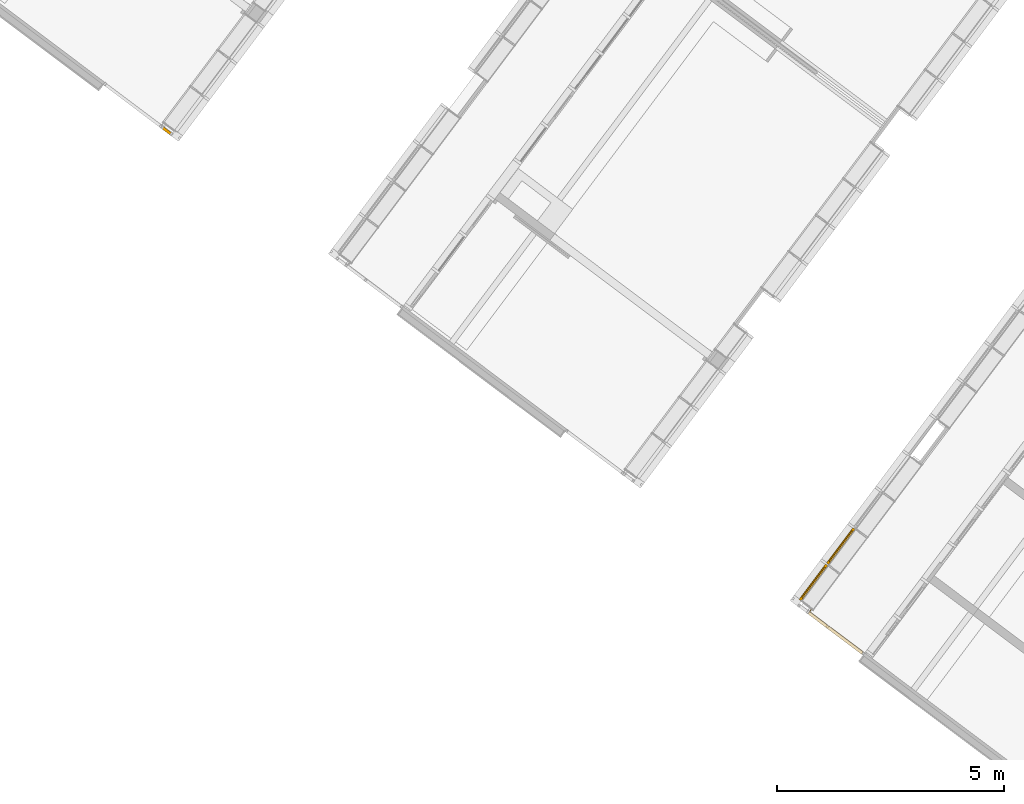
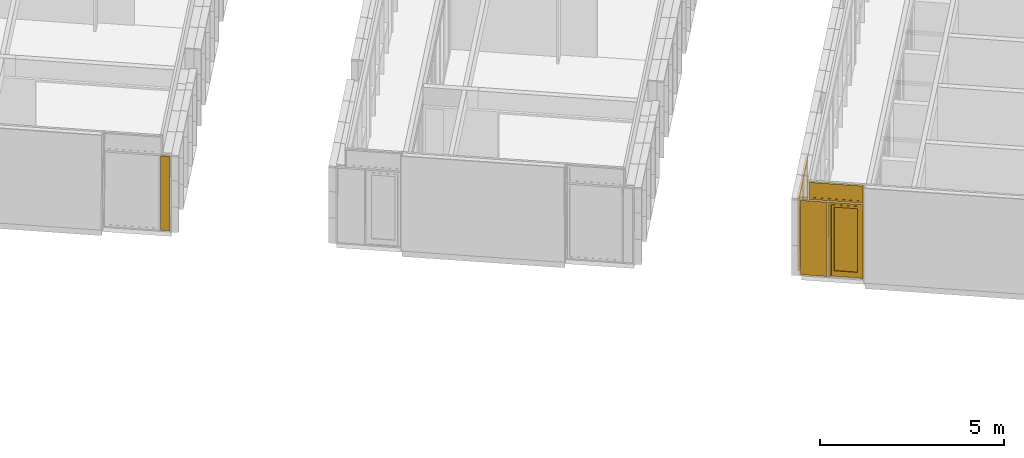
# One storey, part 139 of 243: 3 doors, 3 windows, 3 elements without a shape of their own.
"""IFC2X3 building model written with IfcOpenShell, lengths in metres."""

from ifc_helpers import new_model, entity, si_unit, converted_unit, derived_unit, direction, frame, origin, origin_2d_with_axis, place, context, subcontext, project, spatial, polyline, rectangle, outline, extrude, faceted_brep, source, transform, mapped, material, material_list, type_object, type_shapes, element, aggregate, save


model = new_model("IFC2X3")

# Units and contexts
model_context = context("Model", 3, precision=1e-05, world=origin(), true_north=direction((6.123031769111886e-17, 1.0)))
body_context = subcontext(model_context, "Body", "Model", "MODEL_VIEW")
ifc_project = project(units=[si_unit("LENGTHUNIT", "METRE"), si_unit("AREAUNIT", "SQUARE_METRE"), si_unit("VOLUMEUNIT", "CUBIC_METRE"), converted_unit("PLANEANGLEUNIT", "DEGREE", entity("IfcRatioMeasure", 0.017453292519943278), si_unit("PLANEANGLEUNIT", "RADIAN"), dimensions=[0, 0, 0, 0, 0, 0, 0]), si_unit("MASSUNIT", "GRAM", prefix="KILO"), derived_unit("MASSDENSITYUNIT", [(si_unit("MASSUNIT", "GRAM", prefix="KILO"), 1), (si_unit("LENGTHUNIT", "METRE"), -3)]), derived_unit("IONCONCENTRATIONUNIT", [(si_unit("MASSUNIT", "GRAM", prefix="KILO"), 1), (si_unit("LENGTHUNIT", "METRE"), -3)]), derived_unit("MOMENTOFINERTIAUNIT", [(si_unit("LENGTHUNIT", "METRE"), 4)]), si_unit("TIMEUNIT", "SECOND"), si_unit("FREQUENCYUNIT", "HERTZ"), si_unit("THERMODYNAMICTEMPERATUREUNIT", "DEGREE_CELSIUS"), derived_unit("THERMALTRANSMITTANCEUNIT", [(si_unit("MASSUNIT", "GRAM", prefix="KILO"), 1), (si_unit("THERMODYNAMICTEMPERATUREUNIT", "KELVIN"), -1), (si_unit("TIMEUNIT", "SECOND"), -3)]), derived_unit("THERMALCONDUCTANCEUNIT", [(si_unit("MASSUNIT", "GRAM", prefix="KILO"), 1), (si_unit("THERMODYNAMICTEMPERATUREUNIT", "KELVIN"), -1), (si_unit("TIMEUNIT", "SECOND"), -3), (si_unit("LENGTHUNIT", "METRE"), 1)]), derived_unit("VOLUMETRICFLOWRATEUNIT", [(si_unit("LENGTHUNIT", "METRE"), 3), (si_unit("TIMEUNIT", "SECOND"), -1)]), derived_unit("MASSFLOWRATEUNIT", [(si_unit("MASSUNIT", "GRAM", prefix="KILO"), 1), (si_unit("TIMEUNIT", "SECOND"), -1)]), derived_unit("ROTATIONALFREQUENCYUNIT", [(si_unit("TIMEUNIT", "SECOND"), -1)]), si_unit("ELECTRICCURRENTUNIT", "AMPERE"), si_unit("ELECTRICVOLTAGEUNIT", "VOLT"), si_unit("POWERUNIT", "WATT"), si_unit("FORCEUNIT", "NEWTON", prefix="KILO"), si_unit("ILLUMINANCEUNIT", "LUX"), si_unit("LUMINOUSFLUXUNIT", "LUMEN"), si_unit("LUMINOUSINTENSITYUNIT", "CANDELA"), derived_unit("USERDEFINED", [(si_unit("MASSUNIT", "GRAM", prefix="KILO"), -1), (si_unit("LENGTHUNIT", "METRE"), -2), (si_unit("TIMEUNIT", "SECOND"), 3), (si_unit("LUMINOUSFLUXUNIT", "LUMEN"), 1)]), derived_unit("USERDEFINED", [(si_unit("MASSUNIT", "GRAM", prefix="KILO"), 1), (si_unit("TIMEUNIT", "SECOND"), -3), (si_unit("LENGTHUNIT", "METRE"), 3), (si_unit("ELECTRICCURRENTUNIT", "AMPERE"), -2)]), derived_unit("SOUNDPOWERUNIT", [(si_unit("MASSUNIT", "GRAM", prefix="KILO"), 1), (si_unit("TIMEUNIT", "SECOND"), -3), (si_unit("LENGTHUNIT", "METRE"), 2)]), derived_unit("SOUNDPRESSUREUNIT", [(si_unit("MASSUNIT", "GRAM", prefix="KILO"), 1), (si_unit("LENGTHUNIT", "METRE"), -1), (si_unit("TIMEUNIT", "SECOND"), -2)]), derived_unit("LINEARVELOCITYUNIT", [(si_unit("LENGTHUNIT", "METRE"), 1), (si_unit("TIMEUNIT", "SECOND"), -1)]), si_unit("PRESSUREUNIT", "PASCAL"), derived_unit("USERDEFINED", [(si_unit("MASSUNIT", "GRAM", prefix="KILO"), 1), (si_unit("LENGTHUNIT", "METRE"), -2), (si_unit("TIMEUNIT", "SECOND"), -2)]), derived_unit("LINEARFORCEUNIT", [(si_unit("MASSUNIT", "GRAM", prefix="KILO"), 1), (si_unit("TIMEUNIT", "SECOND"), -2)]), derived_unit("PLANARFORCEUNIT", [(si_unit("MASSUNIT", "GRAM", prefix="KILO"), 1), (si_unit("LENGTHUNIT", "METRE"), -1), (si_unit("TIMEUNIT", "SECOND"), -2)]), derived_unit("SPECIFICHEATCAPACITYUNIT", [(si_unit("THERMODYNAMICTEMPERATUREUNIT", "KELVIN"), -1), (si_unit("LENGTHUNIT", "METRE"), 2), (si_unit("TIMEUNIT", "SECOND"), -2)]), derived_unit("HEATINGVALUEUNIT", [(si_unit("LENGTHUNIT", "METRE"), 2), (si_unit("TIMEUNIT", "SECOND"), -2)]), derived_unit("VAPORPERMEABILITYUNIT", [(si_unit("LENGTHUNIT", "METRE"), -1), (si_unit("TIMEUNIT", "SECOND"), 1)]), derived_unit("DYNAMICVISCOSITYUNIT", [(si_unit("MASSUNIT", "GRAM", prefix="KILO"), 1), (si_unit("TIMEUNIT", "SECOND"), -1), (si_unit("LENGTHUNIT", "METRE"), -1)]), derived_unit("THERMALEXPANSIONCOEFFICIENTUNIT", [(si_unit("THERMODYNAMICTEMPERATUREUNIT", "KELVIN"), -1)]), derived_unit("MODULUSOFELASTICITYUNIT", [(si_unit("MASSUNIT", "GRAM", prefix="KILO"), 1), (si_unit("LENGTHUNIT", "METRE"), -1), (si_unit("TIMEUNIT", "SECOND"), -2)]), derived_unit("ISOTHERMALMOISTURECAPACITYUNIT", [(si_unit("LENGTHUNIT", "METRE"), 3), (si_unit("MASSUNIT", "GRAM", prefix="KILO"), -1)]), derived_unit("MOISTUREDIFFUSIVITYUNIT", [(si_unit("TIMEUNIT", "SECOND"), -1), (si_unit("LENGTHUNIT", "METRE"), 2)])], contexts=[model_context])

# Site, building, storey
site_placement = place(None, frame((0.0, 0.0, 235.0), z_axis=(0.0, 0.0, 1.0), x_axis=(-0.7996477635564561, 0.6004693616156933, 0.0)))
site = spatial("IfcSite", under=ifc_project, at=site_placement, Name="Default", CompositionType="ELEMENT")
building_placement = place(site_placement, origin())
building = spatial("IfcBuilding", under=site, at=building_placement, CompositionType="ELEMENT")
storey_placement = place(building_placement, origin())
storey = spatial("IfcBuildingStorey", under=building, at=storey_placement, Name="P0- Escola", CompositionType="ELEMENT", Elevation=0.0)

# Curtain wall, doors, window
curtain_wall_type_1 = type_object("IfcCurtainWallType", Name="Muro cortina:MC- EXT- AL1- Fa porxo", PredefinedType="NOTDEFINED")
curtain_wall_1_placement = place(storey_placement, origin())
curtain_wall_1 = element("IfcCurtainWall", 1, at=curtain_wall_1_placement, inside=storey, type_object=curtain_wall_type_1, Name="Muro cortina:MC- EXT- AL1- Fa porxo", ObjectType="Muro cortina:MC- EXT- AL1- Fa porxo")
ifc_material_1 = material(Name="_Fusta massisa- T1")
ifc_material_2 = material(Name="_Aillament")
ifc_material_3 = material(Name="_Alumini- T1- Perfil")
ifc_material_list_1 = material_list([ifc_material_1, ifc_material_2, ifc_material_3])
door_style_1 = type_object("IfcDoorStyle", Name="MC- Alu- panell especific:MC- Alu- panell especific", ConstructionType="NOTDEFINED", OperationType="NOTDEFINED", ParameterTakesPrecedence=False, Sizeable=False, material=ifc_material_list_1)
shared_shape_1 = source(origin(), body_context, "Body", "SweptSolid", [
    extrude(outline(polyline([(-0.3273333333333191, -0.009999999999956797), (-0.3273333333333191, -0.030000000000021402), (0.17116666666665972, -0.030000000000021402), (0.17116666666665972, 0.03999999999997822), (0.15616666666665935, 0.03999999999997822), (0.15616666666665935, -0.009999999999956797), (-0.3273333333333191, -0.009999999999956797)])), frame((-0.04191666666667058, -0.08000000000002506, 0.0), z_axis=(0.0, 0.0, -1.0), x_axis=(1.0, 0.0, 0.0)), (0.0, 0.0, -1.0), 2.4712499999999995),
    extrude(rectangle(XDim=0.04400000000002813, YDim=0.7384999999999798, at=origin_2d_with_axis()), frame((0.0, -0.027999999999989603, 0.0), z_axis=(0.0, 0.0, 1.0), x_axis=(0.0, 1.0, 0.0)), (0.0, 0.0, 1.0), 2.4712499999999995),
    extrude(rectangle(XDim=0.73849999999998, YDim=0.005999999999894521, at=origin_2d_with_axis()), frame((0.0, -0.003000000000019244, 0.0), z_axis=(0.0, 0.0, 1.0), x_axis=(-1.0, 0.0, 0.0)), (0.0, 0.0, 1.0), 2.4712499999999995),
])
type_shapes(door_style_1, [shared_shape_1])
door_1_placement = place(curtain_wall_1_placement, frame((36.174897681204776, -20.28894175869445, 0.02099999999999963)))
door_1 = element("IfcDoor", 2, at=door_1_placement, type_object=door_style_1, material=ifc_material_list_1, Name="MC- Alu- panell especific:MC- Alu- panell especific", ObjectType="MC- Alu- panell especific:MC- Alu- panell especific", OverallHeight=2.4712499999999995, OverallWidth=0.7384999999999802, context=body_context, shape_type="MappedRepresentation", body=[
    mapped(shared_shape_1, transform((0.0, 0.0, 0.0), scale=1.0)),
])
ifc_material_4 = material(Name="_Vidre")
ifc_material_list_2 = material_list([ifc_material_3, ifc_material_4])
door_style_2 = type_object("IfcDoorStyle", Name="MC- Alu- Conjunt porta- 70x60 cm- +15cm- obertura int:MC- Alu- Conjunt porta- 70x60 cm- +15cm- obertura int", ConstructionType="NOTDEFINED", OperationType="NOTDEFINED", ParameterTakesPrecedence=False, Sizeable=False, material=ifc_material_list_2)
shared_shape_2 = source(origin(), body_context, "Body", "Brep", [
    faceted_brep([(-0.3984499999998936, 0.0, 0.024000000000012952), (0.39844999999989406, 0.0, 0.024000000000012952), (0.39844999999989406, -0.06569970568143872, 0.024000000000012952), (-0.3984499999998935, -0.0656997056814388, 0.024000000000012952), (-0.3984499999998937, -0.0656997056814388, 2.397949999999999), (-0.3984499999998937, 0.0, 2.397949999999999), (0.39844999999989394, -0.06569970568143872, 2.397949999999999), (0.4224499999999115, -0.06569970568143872, 0.0), (-0.42244999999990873, -0.0656997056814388, 0.0), (-0.4224499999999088, -0.0656997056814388, 2.421950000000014), (0.4224499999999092, -0.06569970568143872, 2.421950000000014), (0.39844999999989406, 0.0, 2.397949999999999), (-0.32184999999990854, 0.0, 2.3213500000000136), (-0.3218499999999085, 0.0, 0.20400000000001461), (0.32184999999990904, 0.0, 0.20400000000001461), (0.32184999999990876, 0.0, 2.3213500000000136), (0.4224499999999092, -0.0699997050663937, 2.421950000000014), (0.4224499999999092, -0.0699997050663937, 0.0), (-0.42244999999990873, -0.0699997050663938, 0.0), (-0.4224499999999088, -0.0699997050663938, 2.421950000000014), (0.32184999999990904, -0.06999970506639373, 2.321350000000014), (0.321849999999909, -0.06999970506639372, 0.20400000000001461), (-0.3218499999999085, -0.06999970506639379, 0.20400000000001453), (-0.32184999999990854, -0.06999970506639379, 2.3213500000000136), (0.3218499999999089, -0.06449970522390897, 2.3213500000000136), (0.32184999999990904, -0.06449970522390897, 0.20400000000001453), (-0.3218499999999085, -0.06449970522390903, 0.20400000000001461), (-0.32184999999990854, -0.06449970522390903, 2.3213500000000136), (0.34685000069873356, -0.06449970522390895, 2.3463500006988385), (0.34685000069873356, -0.06449970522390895, 0.17899999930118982), (-0.34685000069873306, -0.06449970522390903, 0.17899999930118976), (-0.34685000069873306, -0.06449970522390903, 2.346350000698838), (0.34685000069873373, -0.018999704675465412, 2.3463500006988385), (0.34685000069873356, -0.01899970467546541, 0.17899999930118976), (-0.34685000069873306, -0.018999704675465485, 0.17899999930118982), (-0.34685000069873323, -0.01899970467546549, 2.346350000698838), (0.32184999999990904, -0.018999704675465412, 2.321350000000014), (0.3218499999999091, -0.018999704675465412, 0.20400000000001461), (-0.3218499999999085, -0.018999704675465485, 0.20400000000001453), (-0.32184999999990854, -0.018999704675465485, 2.3213500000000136)], [[[0, 1, 2, 3]], [[4, 5, 0, 3]], [[2, 6, 4, 3], [7, 8, 9, 10]], [[2, 1, 11, 6]], [[11, 1, 0, 5], [12, 13, 14, 15]], [[16, 17, 7, 10]], [[8, 7, 17, 18]], [[18, 17, 16, 19], [20, 21, 22, 23]], [[24, 25, 21, 20]], [[21, 25, 26, 22]], [[27, 26, 25, 24], [28, 29, 30, 31]], [[32, 33, 29, 28]], [[33, 34, 30, 29]], [[35, 34, 33, 32], [36, 37, 38, 39]], [[15, 14, 37, 36]], [[37, 14, 13, 38]], [[9, 8, 18, 19]], [[23, 22, 26, 27]], [[31, 30, 34, 35]], [[39, 38, 13, 12]], [[19, 16, 10, 9]], [[27, 24, 20, 23]], [[35, 32, 28, 31]], [[12, 15, 36, 39]], [[4, 6, 11, 5]]], outer=[[True], [True], [False, True], [True], [True, False], [True], [True], [True, False], [True], [True], [False, True], [True], [True], [True, False], [True], [True], [True], [True], [True], [True], [True], [True], [True], [True], [True]]),
    faceted_brep([(0.34685000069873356, -0.060899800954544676, 0.17899999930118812), (-0.3468500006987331, -0.06089980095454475, 0.17899999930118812), (-0.3468500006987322, -0.028899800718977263, 0.17899999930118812), (0.34685000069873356, -0.028899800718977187, 0.17899999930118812), (0.34685000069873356, -0.060899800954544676, 2.3463500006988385), (0.34685000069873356, -0.028899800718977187, 2.3463500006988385), (-0.3468500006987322, -0.028899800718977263, 2.3463500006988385), (-0.3468500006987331, -0.06089980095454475, 2.3463500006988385)], [[[0, 1, 2, 3]], [[4, 0, 3, 5]], [[5, 3, 2, 6]], [[6, 2, 1, 7]], [[7, 1, 0, 4]], [[4, 5, 6, 7]]]),
    faceted_brep([(-0.47174999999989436, -0.06999999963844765, 0.0), (-0.47174999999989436, 0.0, 0.0), (-0.4044500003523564, 0.0, 0.0), (-0.4044500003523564, -0.008800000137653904, 0.0), (-0.4199499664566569, -0.008800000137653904, 0.0), (-0.4199499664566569, -0.059699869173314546, 0.0), (-0.43044999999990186, -0.059699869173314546, 0.0), (-0.43044999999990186, -0.06999999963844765, 0.0), (-0.43044999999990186, -0.06999999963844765, 2.4299500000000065), (0.43044999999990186, -0.06999999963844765, 2.4299500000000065), (0.43044999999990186, -0.06999999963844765, 0.0), (0.47174999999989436, -0.06999999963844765, 0.0), (0.47174999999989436, -0.06999999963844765, 2.471249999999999), (-0.4717499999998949, -0.06999999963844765, 2.4712500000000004), (-0.43044999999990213, -0.059699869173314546, 2.4299500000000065), (-0.4199499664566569, -0.059699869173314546, 2.4194499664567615), (0.4199499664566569, -0.059699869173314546, 2.4194499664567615), (0.4199499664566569, -0.059699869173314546, 0.0), (0.43044999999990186, -0.059699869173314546, 0.0), (0.43044999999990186, -0.059699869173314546, 2.4299500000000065), (-0.41994996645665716, -0.008800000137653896, 2.4194499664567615), (-0.4044500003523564, -0.008800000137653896, 2.403950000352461), (0.4044500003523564, -0.008800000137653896, 2.403950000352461), (0.4044500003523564, -0.008800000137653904, 0.0), (0.4199499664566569, -0.008800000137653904, 0.0), (0.4199499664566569, -0.008800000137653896, 2.4194499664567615), (-0.4044500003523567, 0.0, 2.403950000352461), (-0.47174999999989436, 0.0, 2.471249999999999), (0.47174999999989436, 0.0, 2.471249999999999), (0.47174999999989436, 0.0, 0.0), (0.4044500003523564, 0.0, 0.0), (0.4044500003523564, 0.0, 2.403950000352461)], [[[0, 1, 2, 3, 4, 5, 6, 7]], [[7, 8, 9, 10, 11, 12, 13, 0]], [[6, 14, 8, 7]], [[5, 15, 16, 17, 18, 19, 14, 6]], [[4, 20, 15, 5]], [[3, 21, 22, 23, 24, 25, 20, 4]], [[2, 26, 21, 3]], [[1, 27, 28, 29, 30, 31, 26, 2]], [[0, 13, 27, 1]], [[11, 10, 18, 17, 24, 23, 30, 29]], [[12, 11, 29, 28]], [[31, 30, 23, 22]], [[25, 24, 17, 16]], [[19, 18, 10, 9]], [[14, 19, 9, 8]], [[20, 25, 16, 15]], [[26, 31, 22, 21]], [[13, 12, 28, 27]]]),
])
type_shapes(door_style_2, [shared_shape_2])
door_2_placement = place(curtain_wall_1_placement, frame((35.29289768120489, -20.288941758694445, 0.020999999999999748)))
door_2 = element("IfcDoor", 3, at=door_2_placement, type_object=door_style_2, material=ifc_material_list_2, Name="MC- Alu- Conjunt porta- 70x60 cm- +15cm- obertura int:MC- Alu- Conjunt porta- 70x60 cm- +15cm- obertura int", ObjectType="MC- Alu- Conjunt porta- 70x60 cm- +15cm- obertura int:MC- Alu- Conjunt porta- 70x60 cm- +15cm- obertura int", OverallHeight=2.4712500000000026, OverallWidth=0.9434999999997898, context=body_context, shape_type="MappedRepresentation", body=[
    mapped(shared_shape_2, transform((0.0, 0.0, 0.0), scale=1.0)),
])
ifc_material_list_3 = material_list([ifc_material_4, ifc_material_3])
window_style_1 = type_object("IfcWindowStyle", Name="MC- Alu- Conjunt vidre fix- 62x60 cm:MC- Alu- Conjunt vidre fix- 62x60 cm", ConstructionType="NOTDEFINED", OperationType="NOTDEFINED", ParameterTakesPrecedence=False, Sizeable=False, material=ifc_material_list_3)
shared_shape_3 = source(origin(), body_context, "Body", "Brep", [
    faceted_brep([(0.6896099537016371, -0.007600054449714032, 0.048806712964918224), (0.6896099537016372, -0.03160022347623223, 0.048806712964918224), (-0.6896099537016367, -0.03160022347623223, 0.048806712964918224), (-0.689609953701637, -0.007600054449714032, 0.048806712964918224), (0.6896099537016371, -0.007600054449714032, 0.5147500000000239), (-0.6896099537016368, -0.007600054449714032, 0.5147500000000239), (-0.6896099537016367, -0.03160022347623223, 0.5147500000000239), (0.6896099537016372, -0.03160022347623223, 0.5147500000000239)], [[[0, 1, 2, 3]], [[4, 0, 3, 5]], [[5, 3, 2, 6]], [[6, 2, 1, 7]], [[7, 1, 0, 4]], [[4, 5, 6, 7]]]),
    faceted_brep([(0.7384166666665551, -0.05999999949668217, 0.563750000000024), (0.7384166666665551, -0.05999999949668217, 0.0), (0.7384166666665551, 0.0, 0.0), (0.7384166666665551, 0.0, 0.563750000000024), (-0.7384166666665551, 0.0, 0.563750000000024), (-0.7384166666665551, 0.0, 0.0), (0.6756098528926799, 0.0, 0.5009431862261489), (-0.6756098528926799, 0.0, 0.5009431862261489), (-0.6756098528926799, 0.0, 0.06280681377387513), (0.6756098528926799, 0.0, 0.06280681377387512), (-0.7384166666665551, -0.05999999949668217, 0.0), (-0.7384166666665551, -0.05999999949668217, 0.563750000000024), (-0.6756126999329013, -0.05999999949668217, 0.5009460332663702), (0.6756126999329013, -0.05999999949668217, 0.5009460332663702), (0.6756126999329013, -0.05999999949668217, 0.06280396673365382), (-0.6756126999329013, -0.05999999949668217, 0.06280396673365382), (0.6756126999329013, -0.03160022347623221, 0.5009460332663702), (0.6756126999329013, -0.03160022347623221, 0.06280396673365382), (-0.6756126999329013, -0.03160022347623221, 0.06280396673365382), (-0.6756126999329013, -0.03160022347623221, 0.5009460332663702), (-0.689609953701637, -0.03160022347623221, 0.5149432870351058), (0.689609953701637, -0.03160022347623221, 0.5149432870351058), (0.689609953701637, -0.03160022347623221, 0.048806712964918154), (-0.689609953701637, -0.03160022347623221, 0.04880671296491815), (0.689609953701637, -0.007600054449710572, 0.5149432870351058), (0.689609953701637, -0.007600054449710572, 0.04880671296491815), (-0.689609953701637, -0.007600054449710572, 0.048806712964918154), (-0.689609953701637, -0.007600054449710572, 0.5149432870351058), (-0.6756098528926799, -0.007600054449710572, 0.5009431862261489), (0.6756098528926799, -0.007600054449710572, 0.5009431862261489), (0.6756098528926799, -0.007600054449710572, 0.06280681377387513), (-0.6756098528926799, -0.007600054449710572, 0.06280681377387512)], [[[0, 1, 2, 3]], [[4, 3, 2, 5], [6, 7, 8, 9]], [[1, 10, 5, 2]], [[0, 11, 10, 1], [12, 13, 14, 15]], [[16, 17, 14, 13]], [[17, 18, 15, 14]], [[16, 19, 18, 17], [20, 21, 22, 23]], [[24, 25, 22, 21]], [[25, 26, 23, 22]], [[24, 27, 26, 25], [28, 29, 30, 31]], [[6, 9, 30, 29]], [[9, 8, 31, 30]], [[10, 11, 4, 5]], [[18, 19, 12, 15]], [[26, 27, 20, 23]], [[8, 7, 28, 31]], [[11, 0, 3, 4]], [[19, 16, 13, 12]], [[27, 24, 21, 20]], [[7, 6, 29, 28]]], outer=[[True], [True, False], [True], [True, False], [True], [True], [False, True], [True], [True], [True, False], [True], [True], [True], [True], [True], [True], [True], [True], [True], [True]]),
])
type_shapes(window_style_1, [shared_shape_3])
window_1_placement = place(curtain_wall_1_placement, frame((35.55956434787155, -20.288941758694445, 2.54525)))
window_1 = element("IfcWindow", 4, at=window_1_placement, type_object=window_style_1, material=ifc_material_list_3, Name="MC- Alu- Conjunt vidre fix- 62x60 cm:MC- Alu- Conjunt vidre fix- 62x60 cm", ObjectType="MC- Alu- Conjunt vidre fix- 62x60 cm:MC- Alu- Conjunt vidre fix- 62x60 cm", OverallHeight=0.563750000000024, OverallWidth=1.4768333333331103, context=body_context, shape_type="MappedRepresentation", body=[
    mapped(shared_shape_3, transform((0.0, 0.0, 0.0), scale=1.0)),
])
aggregate(curtain_wall_1, [door_1, door_2, window_1])

# Curtain wall, door
curtain_wall_2_placement = place(storey_placement, origin())
curtain_wall_2 = element("IfcCurtainWall", 5, at=curtain_wall_2_placement, inside=storey, type_object=curtain_wall_type_1, Name="Muro cortina:MC- EXT- AL1- Fa porxo", ObjectType="Muro cortina:MC- EXT- AL1- Fa porxo")
ifc_material_list_4 = material_list([ifc_material_3, ifc_material_2])
door_style_3 = type_object("IfcDoorStyle", Name="MC- Alu- panell especific xapa:MC- Alu- panell especific xapa", ConstructionType="NOTDEFINED", OperationType="NOTDEFINED", ParameterTakesPrecedence=False, Sizeable=False, material=ifc_material_list_4)
shared_shape_4 = source(origin(), body_context, "Body", "SweptSolid", [
    extrude(rectangle(XDim=0.005999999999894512, YDim=0.2529999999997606, at=origin_2d_with_axis()), frame((0.0, -0.057000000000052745, 0.0), z_axis=(0.0, 0.0, 1.0), x_axis=(0.0, -1.0, 0.0)), (0.0, 0.0, 1.0), 2.4712499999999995),
    extrude(rectangle(XDim=0.2529999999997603, YDim=0.048000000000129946, at=origin_2d_with_axis()), frame((0.0, -0.030000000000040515, 0.0)), (0.0, 0.0, 1.0), 2.4712499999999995),
    extrude(rectangle(XDim=0.005999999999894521, YDim=0.25299999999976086, at=origin_2d_with_axis()), frame((0.0, -0.003000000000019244, 0.0), z_axis=(0.0, 0.0, 1.0), x_axis=(0.0, -1.0, 0.0)), (0.0, 0.0, 1.0), 2.4712499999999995),
])
type_shapes(door_style_3, [shared_shape_4])
door_3_placement = place(curtain_wall_2_placement, frame((53.97264768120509, -20.288941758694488, 0.02099999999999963)))
door_3 = element("IfcDoor", 6, at=door_3_placement, type_object=door_style_3, material=ifc_material_list_4, Name="MC- Alu- panell especific xapa:MC- Alu- panell especific xapa", ObjectType="MC- Alu- panell especific xapa:MC- Alu- panell especific xapa", OverallHeight=2.4712499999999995, OverallWidth=0.252999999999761, context=body_context, shape_type="MappedRepresentation", body=[
    mapped(shared_shape_4, transform((0.0, 0.0, 0.0), scale=1.0)),
])
aggregate(curtain_wall_2, [door_3])

# Curtain wall, windows
curtain_wall_type_2 = type_object("IfcCurtainWallType", Name="Muro cortina:MC- EXT- MC5", PredefinedType="NOTDEFINED")
curtain_wall_3_placement = place(storey_placement, origin())
curtain_wall_3 = element("IfcCurtainWall", 7, at=curtain_wall_3_placement, inside=storey, type_object=curtain_wall_type_2, Name="Muro cortina:MC- EXT- MC5", ObjectType="Muro cortina:MC- EXT- MC5")
window_style_2 = type_object("IfcWindowStyle", Name="MC- Alu- Conjunt vidre fix- 62x60 cm:MC- Alu- Conjunt vidre fix- 62x60 cm", ConstructionType="NOTDEFINED", OperationType="NOTDEFINED", ParameterTakesPrecedence=False, Sizeable=False, material=ifc_material_list_3)
shared_shape_5 = source(origin(), body_context, "Body", "Brep", [
    faceted_brep([(-0.43619328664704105, -0.007600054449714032, 0.048806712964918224), (0.43619328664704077, -0.007600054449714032, 0.048806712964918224), (0.43619328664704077, -0.03160022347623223, 0.048806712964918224), (-0.43619328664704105, -0.03160022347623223, 0.048806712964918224), (-0.43619328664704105, -0.007600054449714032, 2.422449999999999), (0.43619328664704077, -0.007600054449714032, 2.422449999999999), (0.43619328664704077, -0.03160022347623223, 2.422449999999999), (-0.43619328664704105, -0.03160022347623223, 2.422449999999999)], [[[0, 1, 2, 3]], [[4, 5, 1, 0]], [[5, 6, 2, 1]], [[6, 7, 3, 2]], [[7, 4, 0, 3]], [[4, 7, 6, 5]]]),
    faceted_brep([(-0.4849999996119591, -0.05999999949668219, 2.471449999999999), (-0.4849999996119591, 0.0, 2.471449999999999), (-0.4849999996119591, 0.0, 0.0), (-0.48499999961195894, -0.05999999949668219, 0.0), (-0.4221931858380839, 0.0, 2.408643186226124), (-0.4221931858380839, 0.0, 0.06280681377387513), (0.42219318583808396, 0.0, 0.06280681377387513), (0.422193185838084, 0.0, 2.408643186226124), (0.4849999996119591, 0.0, 2.471449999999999), (0.4849999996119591, 0.0, 0.0), (0.48499999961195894, -0.05999999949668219, 0.0), (0.4849999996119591, -0.05999999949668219, 2.471449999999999), (0.42219603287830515, -0.05999999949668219, 2.408646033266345), (0.42219603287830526, -0.05999999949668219, 0.06280396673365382), (-0.42219603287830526, -0.05999999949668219, 0.06280396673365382), (-0.42219603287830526, -0.05999999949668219, 2.4086460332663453), (-0.42219603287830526, -0.03160022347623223, 2.4086460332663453), (-0.4221960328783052, -0.03160022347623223, 0.06280396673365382), (0.4221960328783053, -0.03160022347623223, 0.06280396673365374), (0.42219603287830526, -0.03160022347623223, 2.4086460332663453), (0.43619328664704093, -0.03160022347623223, 2.422643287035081), (0.43619328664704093, -0.03160022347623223, 0.048806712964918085), (-0.4361932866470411, -0.03160022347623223, 0.04880671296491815), (-0.43619328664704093, -0.03160022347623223, 2.422643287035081), (-0.43619328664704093, -0.007600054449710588, 2.422643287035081), (-0.4361932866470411, -0.007600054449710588, 0.04880671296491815), (0.43619328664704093, -0.007600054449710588, 0.048806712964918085), (0.43619328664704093, -0.007600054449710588, 2.422643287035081), (0.42219318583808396, -0.007600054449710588, 2.408643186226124), (0.42219318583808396, -0.007600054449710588, 0.06280681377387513), (-0.42219318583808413, -0.007600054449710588, 0.06280681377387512), (-0.4221931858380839, -0.007600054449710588, 2.408643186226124)], [[[0, 1, 2, 3]], [[4, 5, 6, 7], [8, 9, 2, 1]], [[3, 2, 9, 10]], [[0, 3, 10, 11], [12, 13, 14, 15]], [[16, 15, 14, 17]], [[17, 14, 13, 18]], [[16, 17, 18, 19], [20, 21, 22, 23]], [[24, 23, 22, 25]], [[25, 22, 21, 26]], [[24, 25, 26, 27], [28, 29, 30, 31]], [[4, 31, 30, 5]], [[5, 30, 29, 6]], [[10, 9, 8, 11]], [[18, 13, 12, 19]], [[26, 21, 20, 27]], [[6, 29, 28, 7]], [[11, 8, 1, 0]], [[19, 12, 15, 16]], [[27, 20, 23, 24]], [[7, 28, 31, 4]]], outer=[[True], [False, True], [True], [True, False], [True], [True], [False, True], [True], [True], [True, False], [True], [True], [True], [True], [True], [True], [True], [True], [True], [True]]),
])
type_shapes(window_style_2, [shared_shape_5])
window_2_placement = place(curtain_wall_3_placement, frame((36.6451476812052, -20.91519175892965, 0.03229999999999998), z_axis=(0.0, 0.0, 1.0), x_axis=(0.0, -1.0, 0.0)))
window_2 = element("IfcWindow", 8, at=window_2_placement, type_object=window_style_2, material=ifc_material_list_3, Name="MC- Alu- Conjunt vidre fix- 62x60 cm:MC- Alu- Conjunt vidre fix- 62x60 cm", ObjectType="MC- Alu- Conjunt vidre fix- 62x60 cm:MC- Alu- Conjunt vidre fix- 62x60 cm", OverallHeight=2.471449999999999, OverallWidth=0.9699999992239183, context=body_context, shape_type="MappedRepresentation", body=[
    mapped(shared_shape_5, transform((0.0, 0.0, 0.0), scale=1.0)),
])
window_3_placement = place(curtain_wall_3_placement, frame((36.6451476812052, -21.915191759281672, 0.03229999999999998), z_axis=(0.0, 0.0, 1.0), x_axis=(0.0, -1.0, 0.0)))
window_3 = element("IfcWindow", 9, at=window_3_placement, type_object=window_style_2, material=ifc_material_list_3, Name="MC- Alu- Conjunt vidre fix- 62x60 cm:MC- Alu- Conjunt vidre fix- 62x60 cm", ObjectType="MC- Alu- Conjunt vidre fix- 62x60 cm:MC- Alu- Conjunt vidre fix- 62x60 cm", OverallHeight=2.471449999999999, OverallWidth=0.9699999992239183, context=body_context, shape_type="MappedRepresentation", body=[
    mapped(shared_shape_5, transform((0.0, 0.0, 0.0), scale=1.0)),
])
aggregate(curtain_wall_3, [window_2, window_3])

save(model, "model.ifc")
